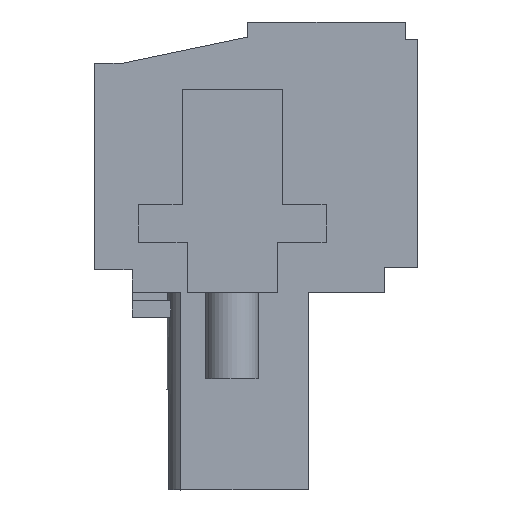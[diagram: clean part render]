
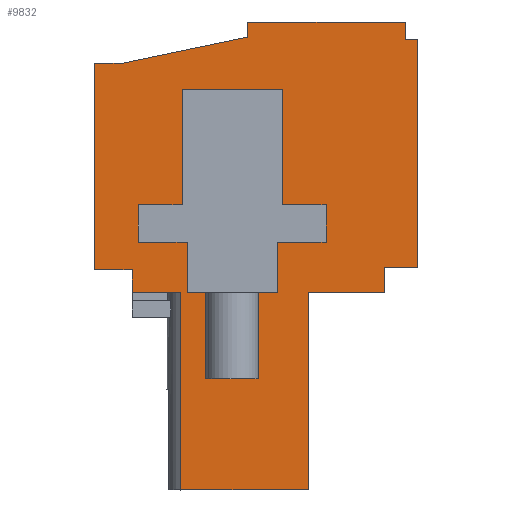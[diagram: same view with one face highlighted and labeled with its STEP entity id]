
A CAD part, left-side view. The second image highlights one B-rep face of the part: STEP entity #9832.
In plain terms, the highlighted planar face has unit normal (-1, 0, 0).
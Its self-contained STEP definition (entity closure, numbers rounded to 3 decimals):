
#242=FACE_BOUND('',#808,.T.);
#284=FACE_OUTER_BOUND('',#807,.T.);
#807=EDGE_LOOP('',(#6113,#6114,#6115,#6116,#6117,#6118,#6119,#6120,#6121,
#6122,#6123,#6124,#6125,#6126,#6127,#6128,#6129));
#808=EDGE_LOOP('',(#6130,#6131,#6132,#6133,#6134,#6135,#6136,#6137,#6138,
#6139,#6140,#6141,#6142));
#1372=LINE('',#13704,#2585);
#1373=LINE('',#13706,#2586);
#1374=LINE('',#13708,#2587);
#1375=LINE('',#13710,#2588);
#1376=LINE('',#13712,#2589);
#1377=LINE('',#13714,#2590);
#1378=LINE('',#13716,#2591);
#1379=LINE('',#13718,#2592);
#1380=LINE('',#13720,#2593);
#1381=LINE('',#13722,#2594);
#1382=LINE('',#13724,#2595);
#1383=LINE('',#13726,#2596);
#1384=LINE('',#13728,#2597);
#1385=LINE('',#13730,#2598);
#1386=LINE('',#13732,#2599);
#1387=LINE('',#13734,#2600);
#1388=LINE('',#13735,#2601);
#1389=LINE('',#13738,#2602);
#1390=LINE('',#13740,#2603);
#1391=LINE('',#13742,#2604);
#1392=LINE('',#13744,#2605);
#1393=LINE('',#13746,#2606);
#1394=LINE('',#13748,#2607);
#1395=LINE('',#13750,#2608);
#1396=LINE('',#13752,#2609);
#1397=LINE('',#13754,#2610);
#1398=LINE('',#13756,#2611);
#1399=LINE('',#13758,#2612);
#1400=LINE('',#13760,#2613);
#1401=LINE('',#13761,#2614);
#2585=VECTOR('',#11091,1.);
#2586=VECTOR('',#11092,1.);
#2587=VECTOR('',#11093,1.);
#2588=VECTOR('',#11094,1.);
#2589=VECTOR('',#11095,1.);
#2590=VECTOR('',#11096,1.);
#2591=VECTOR('',#11097,1.);
#2592=VECTOR('',#11098,1.);
#2593=VECTOR('',#11099,1.);
#2594=VECTOR('',#11100,1.);
#2595=VECTOR('',#11101,1.);
#2596=VECTOR('',#11102,1.);
#2597=VECTOR('',#11103,1.);
#2598=VECTOR('',#11104,1.);
#2599=VECTOR('',#11105,1.);
#2600=VECTOR('',#11106,1.);
#2601=VECTOR('',#11107,1.);
#2602=VECTOR('',#11108,1.);
#2603=VECTOR('',#11109,1.);
#2604=VECTOR('',#11110,1.);
#2605=VECTOR('',#11111,1.);
#2606=VECTOR('',#11112,1.);
#2607=VECTOR('',#11113,1.);
#2608=VECTOR('',#11114,1.);
#2609=VECTOR('',#11115,1.);
#2610=VECTOR('',#11116,1.);
#2611=VECTOR('',#11117,1.);
#2612=VECTOR('',#11118,1.);
#2613=VECTOR('',#11119,1.);
#2614=VECTOR('',#11120,1.);
#3798=VERTEX_POINT('',#13702);
#3799=VERTEX_POINT('',#13703);
#3800=VERTEX_POINT('',#13705);
#3801=VERTEX_POINT('',#13707);
#3802=VERTEX_POINT('',#13709);
#3803=VERTEX_POINT('',#13711);
#3804=VERTEX_POINT('',#13713);
#3805=VERTEX_POINT('',#13715);
#3806=VERTEX_POINT('',#13717);
#3807=VERTEX_POINT('',#13719);
#3808=VERTEX_POINT('',#13721);
#3809=VERTEX_POINT('',#13723);
#3810=VERTEX_POINT('',#13725);
#3811=VERTEX_POINT('',#13727);
#3812=VERTEX_POINT('',#13729);
#3813=VERTEX_POINT('',#13731);
#3814=VERTEX_POINT('',#13733);
#3815=VERTEX_POINT('',#13736);
#3816=VERTEX_POINT('',#13737);
#3817=VERTEX_POINT('',#13739);
#3818=VERTEX_POINT('',#13741);
#3819=VERTEX_POINT('',#13743);
#3820=VERTEX_POINT('',#13745);
#3821=VERTEX_POINT('',#13747);
#3822=VERTEX_POINT('',#13749);
#3823=VERTEX_POINT('',#13751);
#3824=VERTEX_POINT('',#13753);
#3825=VERTEX_POINT('',#13755);
#3826=VERTEX_POINT('',#13757);
#3827=VERTEX_POINT('',#13759);
#4724=EDGE_CURVE('',#3798,#3799,#1372,.T.);
#4725=EDGE_CURVE('',#3799,#3800,#1373,.T.);
#4726=EDGE_CURVE('',#3800,#3801,#1374,.T.);
#4727=EDGE_CURVE('',#3801,#3802,#1375,.F.);
#4728=EDGE_CURVE('',#3802,#3803,#1376,.F.);
#4729=EDGE_CURVE('',#3803,#3804,#1377,.F.);
#4730=EDGE_CURVE('',#3804,#3805,#1378,.F.);
#4731=EDGE_CURVE('',#3805,#3806,#1379,.F.);
#4732=EDGE_CURVE('',#3806,#3807,#1380,.T.);
#4733=EDGE_CURVE('',#3807,#3808,#1381,.T.);
#4734=EDGE_CURVE('',#3808,#3809,#1382,.T.);
#4735=EDGE_CURVE('',#3809,#3810,#1383,.T.);
#4736=EDGE_CURVE('',#3810,#3811,#1384,.F.);
#4737=EDGE_CURVE('',#3811,#3812,#1385,.F.);
#4738=EDGE_CURVE('',#3812,#3813,#1386,.F.);
#4739=EDGE_CURVE('',#3813,#3814,#1387,.F.);
#4740=EDGE_CURVE('',#3814,#3798,#1388,.F.);
#4741=EDGE_CURVE('',#3815,#3816,#1389,.T.);
#4742=EDGE_CURVE('',#3816,#3817,#1390,.T.);
#4743=EDGE_CURVE('',#3817,#3818,#1391,.T.);
#4744=EDGE_CURVE('',#3818,#3819,#1392,.T.);
#4745=EDGE_CURVE('',#3819,#3820,#1393,.T.);
#4746=EDGE_CURVE('',#3820,#3821,#1394,.T.);
#4747=EDGE_CURVE('',#3821,#3822,#1395,.T.);
#4748=EDGE_CURVE('',#3822,#3823,#1396,.T.);
#4749=EDGE_CURVE('',#3823,#3824,#1397,.T.);
#4750=EDGE_CURVE('',#3824,#3825,#1398,.T.);
#4751=EDGE_CURVE('',#3825,#3826,#1399,.T.);
#4752=EDGE_CURVE('',#3826,#3827,#1400,.T.);
#4753=EDGE_CURVE('',#3827,#3815,#1401,.T.);
#6113=ORIENTED_EDGE('',*,*,#4724,.T.);
#6114=ORIENTED_EDGE('',*,*,#4725,.T.);
#6115=ORIENTED_EDGE('',*,*,#4726,.T.);
#6116=ORIENTED_EDGE('',*,*,#4727,.T.);
#6117=ORIENTED_EDGE('',*,*,#4728,.T.);
#6118=ORIENTED_EDGE('',*,*,#4729,.T.);
#6119=ORIENTED_EDGE('',*,*,#4730,.T.);
#6120=ORIENTED_EDGE('',*,*,#4731,.T.);
#6121=ORIENTED_EDGE('',*,*,#4732,.T.);
#6122=ORIENTED_EDGE('',*,*,#4733,.T.);
#6123=ORIENTED_EDGE('',*,*,#4734,.T.);
#6124=ORIENTED_EDGE('',*,*,#4735,.T.);
#6125=ORIENTED_EDGE('',*,*,#4736,.T.);
#6126=ORIENTED_EDGE('',*,*,#4737,.T.);
#6127=ORIENTED_EDGE('',*,*,#4738,.T.);
#6128=ORIENTED_EDGE('',*,*,#4739,.T.);
#6129=ORIENTED_EDGE('',*,*,#4740,.T.);
#6130=ORIENTED_EDGE('',*,*,#4741,.T.);
#6131=ORIENTED_EDGE('',*,*,#4742,.T.);
#6132=ORIENTED_EDGE('',*,*,#4743,.T.);
#6133=ORIENTED_EDGE('',*,*,#4744,.T.);
#6134=ORIENTED_EDGE('',*,*,#4745,.T.);
#6135=ORIENTED_EDGE('',*,*,#4746,.T.);
#6136=ORIENTED_EDGE('',*,*,#4747,.T.);
#6137=ORIENTED_EDGE('',*,*,#4748,.T.);
#6138=ORIENTED_EDGE('',*,*,#4749,.T.);
#6139=ORIENTED_EDGE('',*,*,#4750,.T.);
#6140=ORIENTED_EDGE('',*,*,#4751,.T.);
#6141=ORIENTED_EDGE('',*,*,#4752,.T.);
#6142=ORIENTED_EDGE('',*,*,#4753,.T.);
#8891=PLANE('',#10388);
#9832=ADVANCED_FACE('',(#284,#242),#8891,.T.);
#10388=AXIS2_PLACEMENT_3D('',#13701,#11089,#11090);
#11089=DIRECTION('center_axis',(-1.,0.,0.));
#11090=DIRECTION('ref_axis',(0.,0.,1.));
#11091=DIRECTION('',(0.,0.,-1.));
#11092=DIRECTION('',(0.,-1.,0.));
#11093=DIRECTION('',(0.,0.,1.));
#11094=DIRECTION('',(0.,1.,0.));
#11095=DIRECTION('',(0.,0.,-1.));
#11096=DIRECTION('',(0.,1.,0.));
#11097=DIRECTION('',(0.,0.,-1.));
#11098=DIRECTION('',(0.,-1.,0.));
#11099=DIRECTION('',(0.,0.,1.));
#11100=DIRECTION('',(0.,1.,0.));
#11101=DIRECTION('',(0.,0.,-1.));
#11102=DIRECTION('',(0.,0.979,-0.205));
#11103=DIRECTION('',(0.,-1.,0.));
#11104=DIRECTION('',(0.,0.,1.));
#11105=DIRECTION('',(0.,1.,0.));
#11106=DIRECTION('',(0.,0.,1.));
#11107=DIRECTION('',(0.,1.,0.));
#11108=DIRECTION('',(0.,0.,-1.));
#11109=DIRECTION('',(0.,-1.,0.));
#11110=DIRECTION('',(0.,0.,-1.));
#11111=DIRECTION('',(0.,1.,0.));
#11112=DIRECTION('',(0.,0.,-1.));
#11113=DIRECTION('',(0.,1.,0.));
#11114=DIRECTION('',(0.,1.,0.));
#11115=DIRECTION('',(0.,0.,1.));
#11116=DIRECTION('',(0.,1.,0.));
#11117=DIRECTION('',(0.,0.,1.));
#11118=DIRECTION('',(0.,-1.,0.));
#11119=DIRECTION('',(0.,0.,1.));
#11120=DIRECTION('',(0.,-1.,0.));
#13701=CARTESIAN_POINT('Origin',(3.5,0.,0.));
#13702=CARTESIAN_POINT('',(3.5,9.462,7.9));
#13703=CARTESIAN_POINT('',(3.5,9.462,0.));
#13704=CARTESIAN_POINT('',(3.5,9.462,3.95));
#13705=CARTESIAN_POINT('',(3.5,4.35,0.));
#13706=CARTESIAN_POINT('',(3.5,6.906,0.));
#13707=CARTESIAN_POINT('',(3.5,4.35,7.9));
#13708=CARTESIAN_POINT('',(3.5,4.35,3.95));
#13709=CARTESIAN_POINT('',(3.5,1.3,7.9));
#13710=CARTESIAN_POINT('',(3.5,2.825,7.9));
#13711=CARTESIAN_POINT('',(3.5,1.3,8.9));
#13712=CARTESIAN_POINT('',(3.5,1.3,8.4));
#13713=CARTESIAN_POINT('',(3.5,0.,8.9));
#13714=CARTESIAN_POINT('',(3.5,0.65,8.9));
#13715=CARTESIAN_POINT('',(3.5,0.,18.));
#13716=CARTESIAN_POINT('',(3.5,0.,13.45));
#13717=CARTESIAN_POINT('',(3.5,0.481,18.));
#13718=CARTESIAN_POINT('',(3.5,0.241,18.));
#13719=CARTESIAN_POINT('',(3.5,0.481,18.7));
#13720=CARTESIAN_POINT('',(3.5,0.481,18.35));
#13721=CARTESIAN_POINT('',(3.5,6.781,18.7));
#13722=CARTESIAN_POINT('',(3.5,3.631,18.7));
#13723=CARTESIAN_POINT('',(3.5,6.781,18.1));
#13724=CARTESIAN_POINT('',(3.5,6.781,18.4));
#13725=CARTESIAN_POINT('',(3.5,11.797,17.05));
#13726=CARTESIAN_POINT('',(3.5,9.289,17.575));
#13727=CARTESIAN_POINT('',(3.5,12.9,17.05));
#13728=CARTESIAN_POINT('',(3.5,12.348,17.05));
#13729=CARTESIAN_POINT('',(3.5,12.9,8.8));
#13730=CARTESIAN_POINT('',(3.5,12.9,12.925));
#13731=CARTESIAN_POINT('',(3.5,11.4,8.8));
#13732=CARTESIAN_POINT('',(3.5,12.15,8.8));
#13733=CARTESIAN_POINT('',(3.5,11.4,7.9));
#13734=CARTESIAN_POINT('',(3.5,11.4,8.35));
#13735=CARTESIAN_POINT('',(3.5,10.431,7.9));
#13736=CARTESIAN_POINT('',(3.5,5.4,16.));
#13737=CARTESIAN_POINT('',(3.5,5.4,11.4));
#13738=CARTESIAN_POINT('',(3.5,5.4,13.7));
#13739=CARTESIAN_POINT('',(3.5,3.65,11.4));
#13740=CARTESIAN_POINT('',(3.5,4.525,11.4));
#13741=CARTESIAN_POINT('',(3.5,3.65,9.9));
#13742=CARTESIAN_POINT('',(3.5,3.65,10.65));
#13743=CARTESIAN_POINT('',(3.5,5.6,9.9));
#13744=CARTESIAN_POINT('',(3.5,4.625,9.9));
#13745=CARTESIAN_POINT('',(3.5,5.6,7.9));
#13746=CARTESIAN_POINT('',(3.5,5.6,8.9));
#13747=CARTESIAN_POINT('',(3.5,7.4,7.9));
#13748=CARTESIAN_POINT('',(3.5,6.5,7.9));
#13749=CARTESIAN_POINT('',(3.5,9.2,7.9));
#13750=CARTESIAN_POINT('',(3.5,8.3,7.9));
#13751=CARTESIAN_POINT('',(3.5,9.2,9.9));
#13752=CARTESIAN_POINT('',(3.5,9.2,8.9));
#13753=CARTESIAN_POINT('',(3.5,11.15,9.9));
#13754=CARTESIAN_POINT('',(3.5,10.175,9.9));
#13755=CARTESIAN_POINT('',(3.5,11.15,11.4));
#13756=CARTESIAN_POINT('',(3.5,11.15,10.65));
#13757=CARTESIAN_POINT('',(3.5,9.4,11.4));
#13758=CARTESIAN_POINT('',(3.5,10.275,11.4));
#13759=CARTESIAN_POINT('',(3.5,9.4,16.));
#13760=CARTESIAN_POINT('',(3.5,9.4,13.7));
#13761=CARTESIAN_POINT('',(3.5,7.4,16.));
